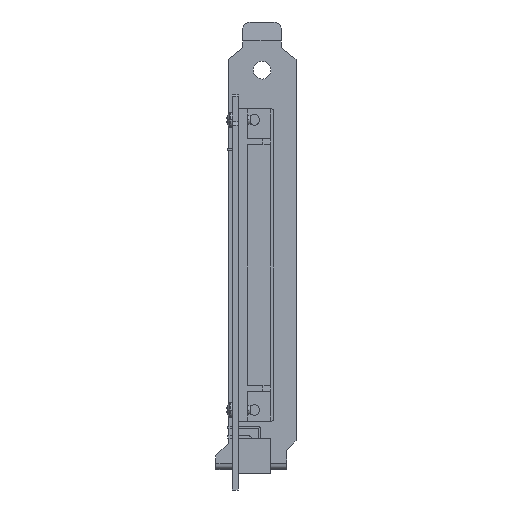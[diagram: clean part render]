
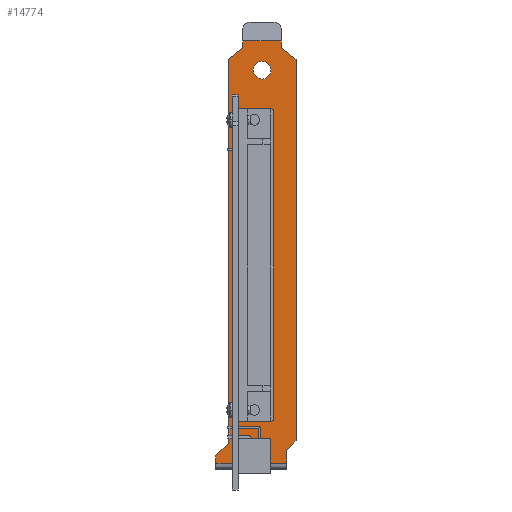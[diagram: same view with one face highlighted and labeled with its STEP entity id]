
A CAD part, front view. The second image highlights one B-rep face of the part: STEP entity #14774.
In plain terms, the highlighted planar face has unit normal (0, -1, 0).
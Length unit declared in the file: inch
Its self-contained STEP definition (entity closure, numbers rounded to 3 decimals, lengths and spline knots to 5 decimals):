
#2004=DIRECTION('',(1.,0.,0.));
#2005=VECTOR('',#2004,0.366);
#2006=CARTESIAN_POINT('',(0.05,0.33,-3.2725));
#2007=LINE('',#2006,#2005);
#2036=DIRECTION('',(1.,0.,0.));
#2037=VECTOR('',#2036,0.412);
#2038=CARTESIAN_POINT('',(0.108,0.33,0.764));
#2039=LINE('',#2038,#2037);
#2040=DIRECTION('',(0.,0.,-1.));
#2041=VECTOR('',#2040,0.074);
#2042=CARTESIAN_POINT('',(0.52,0.33,0.764));
#2043=LINE('',#2042,#2041);
#2044=DIRECTION('',(-0.788,0.,0.616));
#2045=VECTOR('',#2044,0.1967);
#2046=CARTESIAN_POINT('',(0.675,0.33,0.5689));
#2047=LINE('',#2046,#2045);
#2048=DIRECTION('',(0.707,0.,0.707));
#2049=VECTOR('',#2048,0.14142);
#2050=CARTESIAN_POINT('',(0.575,0.33,-3.583));
#2051=LINE('',#2050,#2049);
#2052=DIRECTION('',(0.,0.,1.));
#2053=VECTOR('',#2052,0.137);
#2054=CARTESIAN_POINT('',(0.575,0.33,-3.72));
#2055=LINE('',#2054,#2053);
#2056=DIRECTION('',(-1.,0.,0.));
#2057=VECTOR('',#2056,0.75);
#2058=CARTESIAN_POINT('',(0.575,0.33,-3.72));
#2059=LINE('',#2058,#2057);
#2060=DIRECTION('',(-0.707,0.,-0.707));
#2061=VECTOR('',#2060,0.18102);
#2062=CARTESIAN_POINT('',(-0.047,0.33,-3.514));
#2063=LINE('',#2062,#2061);
#2064=DIRECTION('',(0.,0.,-1.));
#2065=VECTOR('',#2064,4.0829);
#2066=CARTESIAN_POINT('',(-0.047,0.33,0.5689));
#2067=LINE('',#2066,#2065);
#2068=DIRECTION('',(-0.788,0.,-0.616));
#2069=VECTOR('',#2068,0.1967);
#2070=CARTESIAN_POINT('',(0.108,0.33,0.69));
#2071=LINE('',#2070,#2069);
#2072=DIRECTION('',(0.,0.,-1.));
#2073=VECTOR('',#2072,0.074);
#2074=CARTESIAN_POINT('',(0.108,0.33,0.764));
#2075=LINE('',#2074,#2073);
#2076=CARTESIAN_POINT('',(0.314,0.33,0.453));
#2077=DIRECTION('',(0.,1.,0.));
#2078=DIRECTION('',(0.,0.,1.));
#2079=AXIS2_PLACEMENT_3D('',#2076,#2077,#2078);
#2081=CARTESIAN_POINT('',(0.314,0.33,0.453));
#2082=DIRECTION('',(0.,1.,0.));
#2083=DIRECTION('',(0.,0.,-1.));
#2084=AXIS2_PLACEMENT_3D('',#2081,#2082,#2083);
#2132=DIRECTION('',(0.,0.,1.));
#2133=VECTOR('',#2132,0.078);
#2134=CARTESIAN_POINT('',(-0.175,0.33,-3.72));
#2135=LINE('',#2134,#2133);
#2490=DIRECTION('',(0.,0.,1.));
#2491=VECTOR('',#2490,4.0519);
#2492=CARTESIAN_POINT('',(0.675,0.33,-3.483));
#2493=LINE('',#2492,#2491);
#3034=DIRECTION('',(0.,0.,-1.));
#3035=VECTOR('',#3034,3.275);
#3036=CARTESIAN_POINT('',(0.03,0.33,0.0225));
#3037=LINE('',#3036,#3035);
#3042=CARTESIAN_POINT('',(0.05,0.33,0.0225));
#3043=DIRECTION('',(0.,1.,0.));
#3044=DIRECTION('',(-1.,0.,0.));
#3045=AXIS2_PLACEMENT_3D('',#3042,#3043,#3044);
#3060=DIRECTION('',(1.,0.,0.));
#3061=VECTOR('',#3060,0.366);
#3062=CARTESIAN_POINT('',(0.05,0.33,0.0425));
#3063=LINE('',#3062,#3061);
#3088=CARTESIAN_POINT('',(0.416,0.33,0.0225));
#3089=DIRECTION('',(0.,-1.,0.));
#3090=DIRECTION('',(1.,0.,0.));
#3091=AXIS2_PLACEMENT_3D('',#3088,#3089,#3090);
#3106=DIRECTION('',(0.,0.,-1.));
#3107=VECTOR('',#3106,3.275);
#3108=CARTESIAN_POINT('',(0.436,0.33,0.0225));
#3109=LINE('',#3108,#3107);
#3114=CARTESIAN_POINT('',(0.416,0.33,-3.2525));
#3115=DIRECTION('',(0.,1.,0.));
#3116=DIRECTION('',(1.,0.,0.));
#3117=AXIS2_PLACEMENT_3D('',#3114,#3115,#3116);
#3384=CARTESIAN_POINT('',(0.05,0.33,-3.2525));
#3385=DIRECTION('',(0.,-1.,0.));
#3386=DIRECTION('',(-1.,0.,0.));
#3387=AXIS2_PLACEMENT_3D('',#3384,#3385,#3386);
#12811=CARTESIAN_POINT('',(-0.175,0.33,-3.72));
#12813=VERTEX_POINT('',#12811);
#12814=CARTESIAN_POINT('',(0.575,0.33,-3.72));
#12816=VERTEX_POINT('',#12814);
#12818=CARTESIAN_POINT('',(0.575,0.33,-3.583));
#12819=VERTEX_POINT('',#12818);
#12820=CARTESIAN_POINT('',(0.675,0.33,-3.483));
#12821=VERTEX_POINT('',#12820);
#12822=CARTESIAN_POINT('',(0.108,0.33,0.69));
#12823=CARTESIAN_POINT('',(-0.047,0.33,0.5689));
#12824=VERTEX_POINT('',#12822);
#12825=VERTEX_POINT('',#12823);
#12826=CARTESIAN_POINT('',(-0.047,0.33,-3.514));
#12827=VERTEX_POINT('',#12826);
#12828=CARTESIAN_POINT('',(-0.175,0.33,-3.642));
#12829=VERTEX_POINT('',#12828);
#12830=CARTESIAN_POINT('',(0.675,0.33,0.5689));
#12831=CARTESIAN_POINT('',(0.52,0.33,0.69));
#12832=VERTEX_POINT('',#12830);
#12833=VERTEX_POINT('',#12831);
#12942=CARTESIAN_POINT('',(0.314,0.33,0.5465));
#12943=CARTESIAN_POINT('',(0.314,0.33,0.3595));
#12944=VERTEX_POINT('',#12942);
#12945=VERTEX_POINT('',#12943);
#12946=CARTESIAN_POINT('',(0.108,0.33,0.764));
#12947=VERTEX_POINT('',#12946);
#12948=CARTESIAN_POINT('',(0.52,0.33,0.764));
#12949=VERTEX_POINT('',#12948);
#12970=CARTESIAN_POINT('',(0.03,0.33,0.0225));
#12971=CARTESIAN_POINT('',(0.03,0.33,-3.2525));
#12972=VERTEX_POINT('',#12970);
#12973=VERTEX_POINT('',#12971);
#12974=CARTESIAN_POINT('',(0.436,0.33,0.0225));
#12975=CARTESIAN_POINT('',(0.436,0.33,-3.2525));
#12976=VERTEX_POINT('',#12974);
#12977=VERTEX_POINT('',#12975);
#12978=CARTESIAN_POINT('',(0.05,0.33,0.0425));
#12979=CARTESIAN_POINT('',(0.416,0.33,0.0425));
#12980=VERTEX_POINT('',#12978);
#12981=VERTEX_POINT('',#12979);
#12982=CARTESIAN_POINT('',(0.05,0.33,-3.2725));
#12983=CARTESIAN_POINT('',(0.416,0.33,-3.2725));
#12984=VERTEX_POINT('',#12982);
#12985=VERTEX_POINT('',#12983);
#14720=CARTESIAN_POINT('',(0.675,0.33,-3.72));
#14721=DIRECTION('',(0.,1.,0.));
#14722=DIRECTION('',(0.,0.,1.));
#14723=AXIS2_PLACEMENT_3D('',#14720,#14721,#14722);
#14724=PLANE('',#14723);
#14726=ORIENTED_EDGE('',*,*,#14725,.T.);
#14728=ORIENTED_EDGE('',*,*,#14727,.T.);
#14730=ORIENTED_EDGE('',*,*,#14729,.F.);
#14732=ORIENTED_EDGE('',*,*,#14731,.F.);
#14734=ORIENTED_EDGE('',*,*,#14733,.F.);
#14736=ORIENTED_EDGE('',*,*,#14735,.F.);
#14738=ORIENTED_EDGE('',*,*,#14737,.T.);
#14740=ORIENTED_EDGE('',*,*,#14739,.T.);
#14742=ORIENTED_EDGE('',*,*,#14741,.F.);
#14744=ORIENTED_EDGE('',*,*,#14743,.F.);
#14746=ORIENTED_EDGE('',*,*,#14745,.F.);
#14748=ORIENTED_EDGE('',*,*,#14747,.F.);
#14749=EDGE_LOOP('',(#14726,#14728,#14730,#14732,#14734,#14736,#14738,#14740,
#14742,#14744,#14746,#14748));
#14750=FACE_OUTER_BOUND('',#14749,.F.);
#14752=ORIENTED_EDGE('',*,*,#14751,.F.);
#14754=ORIENTED_EDGE('',*,*,#14753,.F.);
#14755=EDGE_LOOP('',(#14752,#14754));
#14756=FACE_BOUND('',#14755,.F.);
#14758=ORIENTED_EDGE('',*,*,#14757,.T.);
#14760=ORIENTED_EDGE('',*,*,#14759,.T.);
#14761=ORIENTED_EDGE('',*,*,#14697,.T.);
#14763=ORIENTED_EDGE('',*,*,#14762,.F.);
#14765=ORIENTED_EDGE('',*,*,#14764,.F.);
#14767=ORIENTED_EDGE('',*,*,#14766,.T.);
#14769=ORIENTED_EDGE('',*,*,#14768,.F.);
#14771=ORIENTED_EDGE('',*,*,#14770,.F.);
#14772=EDGE_LOOP('',(#14758,#14760,#14761,#14763,#14765,#14767,#14769,#14771));
#14773=FACE_BOUND('',#14772,.F.);
#14774=ADVANCED_FACE('',(#14750,#14756,#14773),#14724,.F.);
#2080=CIRCLE('',#2079,0.0935);
#2085=CIRCLE('',#2084,0.0935);
#3046=CIRCLE('',#3045,0.02);
#3092=CIRCLE('',#3091,0.02);
#3118=CIRCLE('',#3117,0.02);
#3388=CIRCLE('',#3387,0.02);
#14697=EDGE_CURVE('',#12984,#12985,#2007,.T.);
#14725=EDGE_CURVE('',#12947,#12949,#2039,.T.);
#14727=EDGE_CURVE('',#12949,#12833,#2043,.T.);
#14729=EDGE_CURVE('',#12832,#12833,#2047,.T.);
#14731=EDGE_CURVE('',#12821,#12832,#2493,.T.);
#14733=EDGE_CURVE('',#12819,#12821,#2051,.T.);
#14735=EDGE_CURVE('',#12816,#12819,#2055,.T.);
#14737=EDGE_CURVE('',#12816,#12813,#2059,.T.);
#14739=EDGE_CURVE('',#12813,#12829,#2135,.T.);
#14741=EDGE_CURVE('',#12827,#12829,#2063,.T.);
#14743=EDGE_CURVE('',#12825,#12827,#2067,.T.);
#14745=EDGE_CURVE('',#12824,#12825,#2071,.T.);
#14747=EDGE_CURVE('',#12947,#12824,#2075,.T.);
#14751=EDGE_CURVE('',#12944,#12945,#2080,.T.);
#14753=EDGE_CURVE('',#12945,#12944,#2085,.T.);
#14757=EDGE_CURVE('',#12972,#12973,#3037,.T.);
#14759=EDGE_CURVE('',#12973,#12984,#3388,.T.);
#14762=EDGE_CURVE('',#12977,#12985,#3118,.T.);
#14764=EDGE_CURVE('',#12976,#12977,#3109,.T.);
#14766=EDGE_CURVE('',#12976,#12981,#3092,.T.);
#14768=EDGE_CURVE('',#12980,#12981,#3063,.T.);
#14770=EDGE_CURVE('',#12972,#12980,#3046,.T.);
